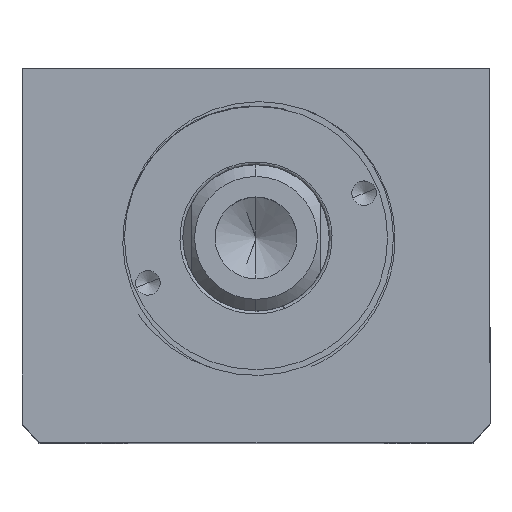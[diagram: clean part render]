
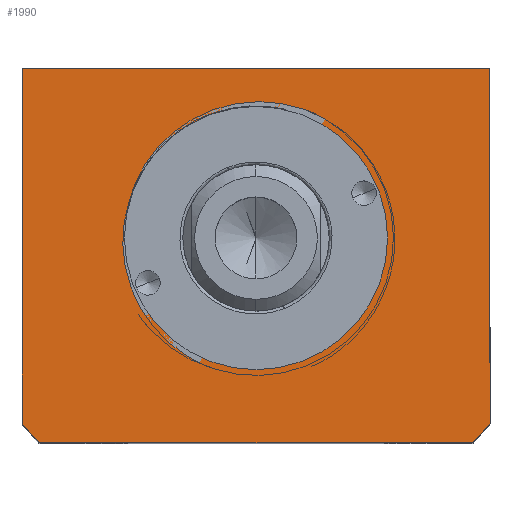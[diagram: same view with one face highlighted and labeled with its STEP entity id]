
A CAD part, top view. The second image highlights one B-rep face of the part: STEP entity #1990.
In plain terms, the highlighted planar face has unit normal (0, 0, 1).
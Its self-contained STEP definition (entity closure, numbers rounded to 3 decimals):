
#94 = CARTESIAN_POINT ( 'NONE',  ( 0., -40.507, 85. ) ) ;
#229 = EDGE_CURVE ( 'NONE', #5724, #5137, #1735, .T. ) ;
#306 = CARTESIAN_POINT ( 'NONE',  ( 40., -72.145, 85. ) ) ;
#315 = EDGE_CURVE ( 'NONE', #9643, #2539, #9096, .T. ) ;
#317 = CARTESIAN_POINT ( 'NONE',  ( -40., -11.507, 85. ) ) ;
#688 = CARTESIAN_POINT ( 'NONE',  ( 40., -11.507, 85. ) ) ;
#892 = CIRCLE ( 'NONE', #7002, 51. ) ;
#1004 = DIRECTION ( 'NONE',  ( 0., 0., 1. ) ) ;
#1099 = DIRECTION ( 'NONE',  ( 1., 0., 0. ) ) ;
#1249 = CARTESIAN_POINT ( 'NONE',  ( -37.094, -75.507, 85. ) ) ;
#1568 = EDGE_CURVE ( 'NONE', #4588, #1598, #8391, .T. ) ;
#1598 = VERTEX_POINT ( 'NONE', #306 ) ;
#1647 = VECTOR ( 'NONE', #5856, 1000. ) ;
#1735 = CIRCLE ( 'NONE', #5011, 22.5 ) ;
#1990 = ADVANCED_FACE ( 'NONE', ( #6943, #4601 ), #7608, .T. ) ;
#2241 = DIRECTION ( 'NONE',  ( 0., 0., 1. ) ) ;
#2344 = ORIENTED_EDGE ( 'NONE', *, *, #229, .F. ) ;
#2356 = EDGE_LOOP ( 'NONE', ( #7691, #2677, #9520, #3130, #5872, #8389 ) ) ;
#2475 = CARTESIAN_POINT ( 'NONE',  ( -22.5, -40.507, 85. ) ) ;
#2539 = VERTEX_POINT ( 'NONE', #5246 ) ;
#2677 = ORIENTED_EDGE ( 'NONE', *, *, #6101, .T. ) ;
#2834 = VECTOR ( 'NONE', #8506, 1000. ) ;
#2902 = VECTOR ( 'NONE', #5425, 1000. ) ;
#2907 = CARTESIAN_POINT ( 'NONE',  ( 0., -40.507, 85. ) ) ;
#2978 = DIRECTION ( 'NONE',  ( 1., 0., 0. ) ) ;
#3034 = CARTESIAN_POINT ( 'NONE',  ( -40., -75.507, 85. ) ) ;
#3110 = DIRECTION ( 'NONE',  ( 0., 0., 1. ) ) ;
#3130 = ORIENTED_EDGE ( 'NONE', *, *, #1568, .T. ) ;
#3146 = LINE ( 'NONE', #688, #2902 ) ;
#3403 = CARTESIAN_POINT ( 'NONE',  ( 22.5, -40.507, 85. ) ) ;
#3723 = DIRECTION ( 'NONE',  ( 0., 0., 1. ) ) ;
#3742 = LINE ( 'NONE', #317, #1647 ) ;
#4127 = VERTEX_POINT ( 'NONE', #1249 ) ;
#4299 = AXIS2_PLACEMENT_3D ( 'NONE', #9249, #4565, #10039 ) ;
#4499 = CARTESIAN_POINT ( 'NONE',  ( 37.094, -75.507, 85. ) ) ;
#4565 = DIRECTION ( 'NONE',  ( 0., 0., 1. ) ) ;
#4588 = VERTEX_POINT ( 'NONE', #4499 ) ;
#4601 = FACE_OUTER_BOUND ( 'NONE', #2356, .T. ) ;
#4709 = CIRCLE ( 'NONE', #4299, 22.5 ) ;
#5011 = AXIS2_PLACEMENT_3D ( 'NONE', #2907, #2241, #2978 ) ;
#5031 = AXIS2_PLACEMENT_3D ( 'NONE', #94, #1004, #1099 ) ;
#5137 = VERTEX_POINT ( 'NONE', #2475 ) ;
#5246 = CARTESIAN_POINT ( 'NONE',  ( -40., -11.507, 85. ) ) ;
#5365 = AXIS2_PLACEMENT_3D ( 'NONE', #6691, #3723, #7277 ) ;
#5425 = DIRECTION ( 'NONE',  ( 0., 1., 0. ) ) ;
#5551 = EDGE_CURVE ( 'NONE', #1598, #9643, #3146, .T. ) ;
#5558 = VERTEX_POINT ( 'NONE', #7013 ) ;
#5724 = VERTEX_POINT ( 'NONE', #3403 ) ;
#5856 = DIRECTION ( 'NONE',  ( 0., -1., 0. ) ) ;
#5872 = ORIENTED_EDGE ( 'NONE', *, *, #5551, .T. ) ;
#6101 = EDGE_CURVE ( 'NONE', #5558, #4127, #892, .T. ) ;
#6519 = EDGE_CURVE ( 'NONE', #2539, #5558, #3742, .T. ) ;
#6688 = EDGE_LOOP ( 'NONE', ( #2344, #6966 ) ) ;
#6691 = CARTESIAN_POINT ( 'NONE',  ( 0., 0., 85. ) ) ;
#6943 = FACE_BOUND ( 'NONE', #6688, .T. ) ;
#6966 = ORIENTED_EDGE ( 'NONE', *, *, #7014, .F. ) ;
#7002 = AXIS2_PLACEMENT_3D ( 'NONE', #7803, #3110, #8580 ) ;
#7013 = CARTESIAN_POINT ( 'NONE',  ( -40., -72.145, 85. ) ) ;
#7014 = EDGE_CURVE ( 'NONE', #5137, #5724, #4709, .T. ) ;
#7016 = LINE ( 'NONE', #3034, #2834 ) ;
#7035 = VECTOR ( 'NONE', #9503, 1000. ) ;
#7277 = DIRECTION ( 'NONE',  ( 1., 0., 0. ) ) ;
#7608 = PLANE ( 'NONE',  #5365 ) ;
#7691 = ORIENTED_EDGE ( 'NONE', *, *, #6519, .T. ) ;
#7803 = CARTESIAN_POINT ( 'NONE',  ( 0., -40.507, 85. ) ) ;
#8389 = ORIENTED_EDGE ( 'NONE', *, *, #315, .T. ) ;
#8391 = CIRCLE ( 'NONE', #5031, 51. ) ;
#8506 = DIRECTION ( 'NONE',  ( 1., 0., 0. ) ) ;
#8580 = DIRECTION ( 'NONE',  ( 1., 0., 0. ) ) ;
#9096 = LINE ( 'NONE', #9538, #7035 ) ;
#9249 = CARTESIAN_POINT ( 'NONE',  ( 0., -40.507, 85. ) ) ;
#9384 = CARTESIAN_POINT ( 'NONE',  ( 40., -11.507, 85. ) ) ;
#9487 = EDGE_CURVE ( 'NONE', #4127, #4588, #7016, .T. ) ;
#9503 = DIRECTION ( 'NONE',  ( -1., 0., 0. ) ) ;
#9520 = ORIENTED_EDGE ( 'NONE', *, *, #9487, .T. ) ;
#9538 = CARTESIAN_POINT ( 'NONE',  ( -40., -11.507, 85. ) ) ;
#9643 = VERTEX_POINT ( 'NONE', #9384 ) ;
#10039 = DIRECTION ( 'NONE',  ( 1., 0., 0. ) ) ;
